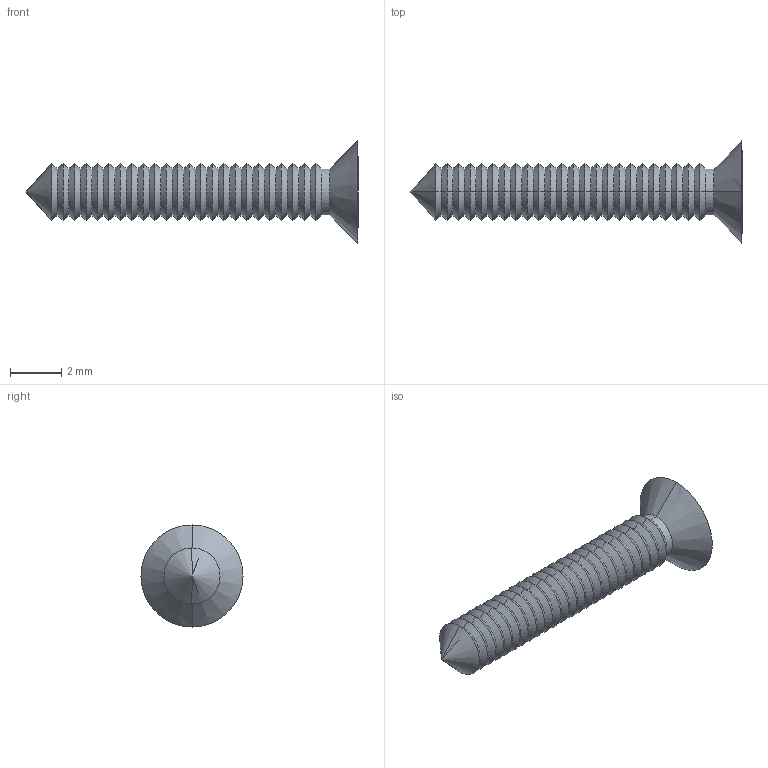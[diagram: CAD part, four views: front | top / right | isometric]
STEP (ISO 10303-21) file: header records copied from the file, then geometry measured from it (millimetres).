
FILE_DESCRIPTION (( 'STEP AP214' ), '1' );
FILE_NAME ('Cargol 2,2x13 PP64A.STEP', '2017-08-24T09:49:21', ( 'aaa' ), ( '' ), 'SwSTEP 2.0', 'SolidWorks 2013', '' );
FILE_SCHEMA (( 'AUTOMOTIVE_DESIGN' ));
Length unit declared in the file: millimetre
Products named in the file (1): Cargol 2,2x13 PP64A
Bounding box: 13 x 4 x 4 mm (x, y, z)
Volume: 42.2 mm3; surface area: 126.1 mm2
Topology: 1 solids, 1 shells, 114 faces, 238 edges, 125 vertices
Faces by surface type: cone 98, plane 14, cylinder 2
Entity records: 2958 total; most frequent: DIRECTION 566, CARTESIAN_POINT 476, ORIENTED_EDGE 472, EDGE_CURVE 236, AXIS2_PLACEMENT_3D 215, VECTOR 136, LINE 136, VERTEX_POINT 125
